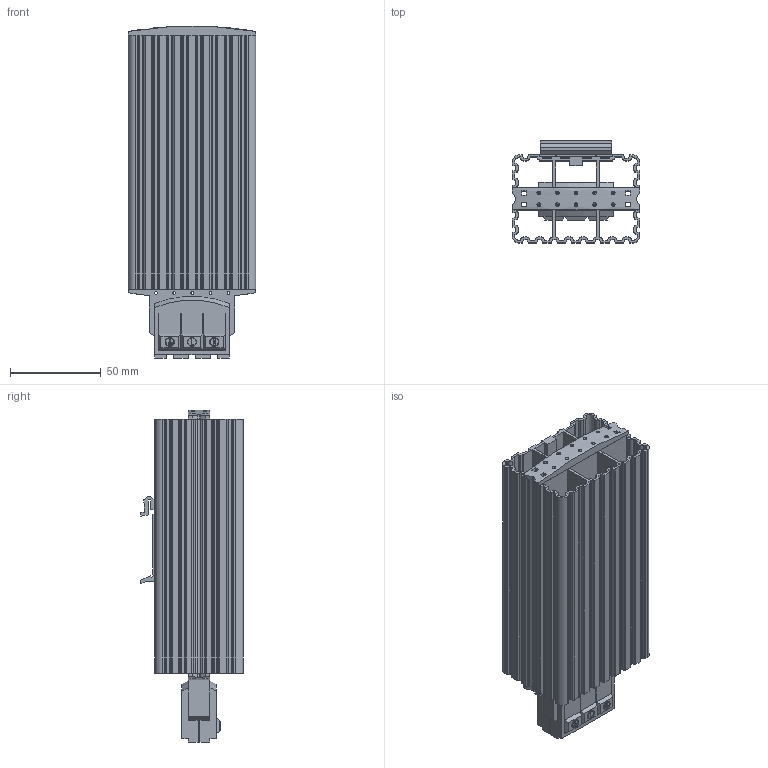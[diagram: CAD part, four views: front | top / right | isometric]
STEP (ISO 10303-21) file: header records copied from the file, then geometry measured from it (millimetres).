
FILE_DESCRIPTION (( 'STEP AP203' ), '1' );
FILE_NAME ('HG140-75W °×.STEP', '2026-01-14T05:23:28', ( 'PC' ), ( 'Microsoft' ), 'SwSTEP 2.0', 'SolidWorks 2024', '' );
FILE_SCHEMA (( 'CONFIG_CONTROL_DESIGN' ));
Length unit declared in the file: millimetre
Products named in the file (1): HG140-75W   白
Bounding box: 70.2 x 56.5 x 183 mm (x, y, z)
Volume: 209834.6 mm3; surface area: 136809.4 mm2
Topology: 4 solids, 4 shells, 691 faces, 1949 edges, 1290 vertices
Faces by surface type: plane 461, cylinder 198, bspline 30, cone 2
Entity records: 24426 total; most frequent: CARTESIAN_POINT 6359, ORIENTED_EDGE 3898, DIRECTION 3525, EDGE_CURVE 1949, LINE 1461, VECTOR 1461, VERTEX_POINT 1290, AXIS2_PLACEMENT_3D 1032
